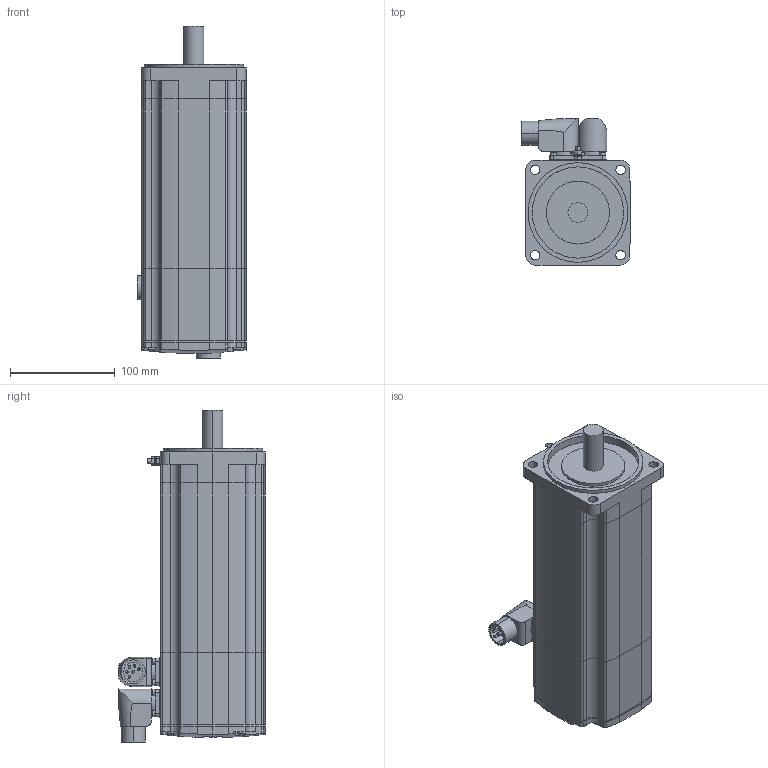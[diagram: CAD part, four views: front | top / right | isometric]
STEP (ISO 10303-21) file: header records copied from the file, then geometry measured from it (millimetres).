
FILE_DESCRIPTION (( 'STEP AP214' ), '1' );
FILE_NAME ('SH31003x0xF2100.STEP', '2013-11-29T09:10:44', ( 'Windows User' ), ( 'Schneider-Electric' ), 'SwSTEP 2.0', 'SolidWorks 2010', '' );
FILE_SCHEMA (( 'AUTOMOTIVE_DESIGN' ));
Length unit declared in the file: millimetre
Products named in the file (9): 1-100005292_DECKEL SH3-100X-X_VM0_Deckel SH3-100x; 1-100010978_K-FLACHDICHTUNG BMH-MH3-100_000; 1-100008863_LAGERSCHILD-SH3-100X-F_VM0_Lagerschild-SH3-100x-F; 1-100010762_GEHÄUSE SH3100X_VM0_Gehäuse SH3-1003-A und F; 1-100010770_K-Flansch SH3-100X_VM0_Flansch SH3-1003 mit Welle ohne Passfeder; 1-100011011_K-ERDUNGSBOLZEN M4_000; K-POWER-CONINVERS-ABGEWIN_POWER-CONINVERS-ABGEWINKELT_000_mit Bremse; K-ENCODER-CONINVERS-ABGEW_ENCODER-CONINVERS-ABGEWINKELT_000_Single- MultiTurn; SH31003x0xF2100
Assembly tree (8 placements, depth 2):
  SH31003x0xF2100
    1-100005292_DECKEL SH3-100X-X_VM0_Deckel SH3-100x
    1-100008863_LAGERSCHILD-SH3-100X-F_VM0_Lagerschild-SH3-100x-F
    1-100010762_GEHÄUSE SH3100X_VM0_Gehäuse SH3-1003-A und F
    1-100010770_K-Flansch SH3-100X_VM0_Flansch SH3-1003 mit Welle ohne Passfeder
    1-100011011_K-ERDUNGSBOLZEN M4_000
    K-POWER-CONINVERS-ABGEWIN_POWER-CONINVERS-ABGEWINKELT_000_mit Bremse
    K-ENCODER-CONINVERS-ABGEW_ENCODER-CONINVERS-ABGEWINKELT_000_Single- MultiTurn
    1-100010978_K-FLACHDICHTUNG BMH-MH3-100_000
Bounding box: 103.65 x 139.9 x 316.25 mm (x, y, z)
Volume: 2422617.5 mm3; surface area: 212300.4 mm2
Topology: 8 solids, 8 shells, 489 faces, 1217 edges, 798 vertices
Faces by surface type: cylinder 253, plane 212, torus 16, sphere 4, bspline 4
Entity records: 16200 total; most frequent: CARTESIAN_POINT 3729, DIRECTION 2712, ORIENTED_EDGE 2434, EDGE_CURVE 1217, AXIS2_PLACEMENT_3D 1049, VERTEX_POINT 798, VECTOR 614, LINE 614
